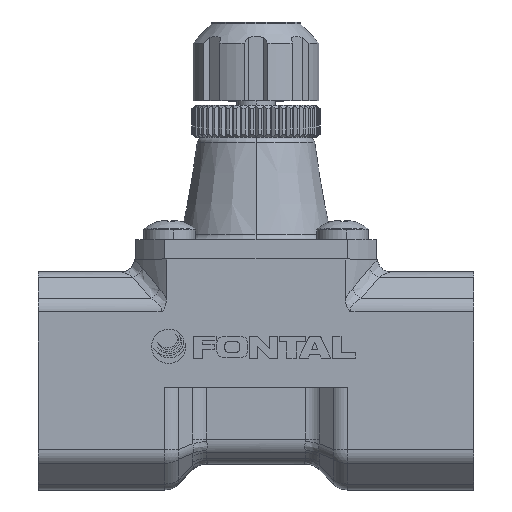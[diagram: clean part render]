
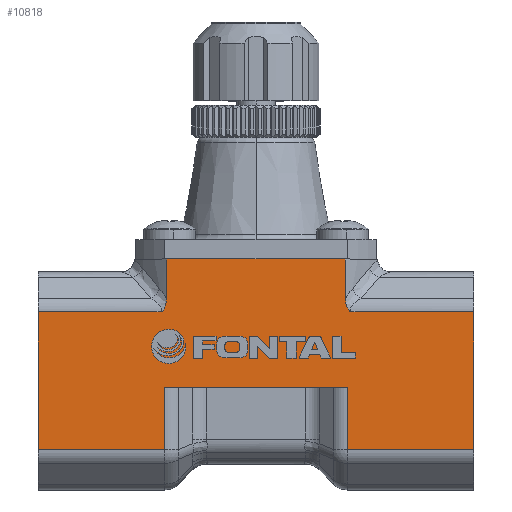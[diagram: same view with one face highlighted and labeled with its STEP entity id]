
A CAD part, top view. The second image highlights one B-rep face of the part: STEP entity #10818.
In plain terms, the highlighted planar face has unit normal (0, 0, 1).
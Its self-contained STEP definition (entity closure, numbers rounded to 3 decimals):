
#46 = VERTEX_POINT ( 'NONE', #15691 ) ;
#95 = CARTESIAN_POINT ( 'NONE',  ( 14.663, 11.757, 17. ) ) ;
#231 = FACE_OUTER_BOUND ( 'NONE', #9949, .T. ) ;
#280 = VECTOR ( 'NONE', #5862, 1000. ) ;
#349 = VERTEX_POINT ( 'NONE', #4993 ) ;
#431 = CARTESIAN_POINT ( 'NONE',  ( 34., 11.757, 17. ) ) ;
#475 = EDGE_CURVE ( 'NONE', #12056, #16376, #6317, .T. ) ;
#578 = CARTESIAN_POINT ( 'NONE',  ( 34., 13., 17. ) ) ;
#880 = CARTESIAN_POINT ( 'NONE',  ( 13.964, 13.84, 17. ) ) ;
#901 = DIRECTION ( 'NONE',  ( 1., 0., 0. ) ) ;
#1028 = VERTEX_POINT ( 'NONE', #13357 ) ;
#1042 = LINE ( 'NONE', #11879, #18570 ) ;
#1102 = EDGE_CURVE ( 'NONE', #8492, #349, #10556, .T. ) ;
#1150 = VERTEX_POINT ( 'NONE', #95 ) ;
#1571 = CARTESIAN_POINT ( 'NONE',  ( 34., 11.757, 17. ) ) ;
#1704 = ORIENTED_EDGE ( 'NONE', *, *, #9402, .T. ) ;
#1801 = ORIENTED_EDGE ( 'NONE', *, *, #475, .T. ) ;
#2030 = DIRECTION ( 'NONE',  ( 0., -1., 0. ) ) ;
#2270 = EDGE_CURVE ( 'NONE', #16942, #11783, #9056, .T. ) ;
#2271 = CARTESIAN_POINT ( 'NONE',  ( 14.396, 12.141, 17. ) ) ;
#2417 = VERTEX_POINT ( 'NONE', #17109 ) ;
#2477 = CARTESIAN_POINT ( 'NONE',  ( -13.964, 13.84, 17. ) ) ;
#2603 = CARTESIAN_POINT ( 'NONE',  ( -14.443, 12.062, 17. ) ) ;
#2871 = CARTESIAN_POINT ( 'NONE',  ( 34., 0., 17. ) ) ;
#2893 = VERTEX_POINT ( 'NONE', #16243 ) ;
#3091 = DIRECTION ( 'NONE',  ( 0., 1., 0. ) ) ;
#3184 = EDGE_CURVE ( 'NONE', #2893, #2417, #9621, .T. ) ;
#3188 = LINE ( 'NONE', #10819, #13304 ) ;
#3655 = ORIENTED_EDGE ( 'NONE', *, *, #10869, .T. ) ;
#4184 = ORIENTED_EDGE ( 'NONE', *, *, #9943, .T. ) ;
#4208 = B_SPLINE_CURVE_WITH_KNOTS ( 'NONE', 3,
 ( #8074, #18151, #13897, #12246, #2271, #5151, #13947, #9496, #13826, #880 ),
 .UNSPECIFIED., .F., .F.,
 ( 4, 2, 2, 2, 4 ),
 ( 0., 0., 0.001, 0.001, 0.002 ),
 .UNSPECIFIED. ) ;
#4390 = VECTOR ( 'NONE', #9130, 1000. ) ;
#4434 = CARTESIAN_POINT ( 'NONE',  ( -13.964, 13.84, 17. ) ) ;
#4993 = CARTESIAN_POINT ( 'NONE',  ( 34., -9.757, 17. ) ) ;
#5048 = CARTESIAN_POINT ( 'NONE',  ( 0., 0., 17. ) ) ;
#5151 = CARTESIAN_POINT ( 'NONE',  ( 14.263, 12.387, 17. ) ) ;
#5437 = CARTESIAN_POINT ( 'NONE',  ( -13.978, 13.466, 17. ) ) ;
#5478 = EDGE_CURVE ( 'NONE', #16376, #9767, #18358, .T. ) ;
#5629 = CARTESIAN_POINT ( 'NONE',  ( -14.663, 11.757, 17. ) ) ;
#5656 = EDGE_CURVE ( 'NONE', #18499, #1028, #1042, .T. ) ;
#5862 = DIRECTION ( 'NONE',  ( 0., -1., 0. ) ) ;
#5953 = DIRECTION ( 'NONE',  ( 1., 0., 0. ) ) ;
#6309 = PLANE ( 'NONE',  #13929 ) ;
#6317 = LINE ( 'NONE', #15669, #16174 ) ;
#6779 = VECTOR ( 'NONE', #17529, 1000. ) ;
#6907 = CARTESIAN_POINT ( 'NONE',  ( -14.263, 12.387, 17. ) ) ;
#7087 = ORIENTED_EDGE ( 'NONE', *, *, #2270, .T. ) ;
#7300 = VECTOR ( 'NONE', #18528, 1000. ) ;
#7691 = VECTOR ( 'NONE', #16530, 1000. ) ;
#7721 = ORIENTED_EDGE ( 'NONE', *, *, #16326, .T. ) ;
#7748 = ORIENTED_EDGE ( 'NONE', *, *, #5656, .T. ) ;
#8074 = CARTESIAN_POINT ( 'NONE',  ( 14.663, 11.757, 17. ) ) ;
#8492 = VERTEX_POINT ( 'NONE', #10654 ) ;
#9019 = DIRECTION ( 'NONE',  ( 0., -1., 0. ) ) ;
#9056 = B_SPLINE_CURVE_WITH_KNOTS ( 'NONE', 3,
 ( #2477, #9781, #5437, #12732, #15484, #11141, #6907, #9843, #2603, #15666, #9718, #5629 ),
 .UNSPECIFIED., .F., .F.,
 ( 4, 2, 2, 2, 2, 4 ),
 ( 0., 0.001, 0.001, 0.002, 0.002, 0.002 ),
 .UNSPECIFIED. ) ;
#9130 = DIRECTION ( 'NONE',  ( 0., 1., 0. ) ) ;
#9402 = EDGE_CURVE ( 'NONE', #1028, #12056, #3188, .T. ) ;
#9486 = CARTESIAN_POINT ( 'NONE',  ( -14.663, 11.757, 17. ) ) ;
#9496 = CARTESIAN_POINT ( 'NONE',  ( 14.017, 13.096, 17. ) ) ;
#9621 = LINE ( 'NONE', #12856, #15447 ) ;
#9718 = CARTESIAN_POINT ( 'NONE',  ( -14.604, 11.83, 17. ) ) ;
#9767 = VERTEX_POINT ( 'NONE', #12106 ) ;
#9781 = CARTESIAN_POINT ( 'NONE',  ( -13.964, 13.652, 17. ) ) ;
#9825 = VERTEX_POINT ( 'NONE', #431 ) ;
#9843 = CARTESIAN_POINT ( 'NONE',  ( -14.395, 12.142, 17. ) ) ;
#9943 = EDGE_CURVE ( 'NONE', #1150, #46, #4208, .T. ) ;
#9949 = EDGE_LOOP ( 'NONE', ( #16091, #4184, #17655, #10169, #7721, #7087, #18595, #7748, #1704, #1801, #10526, #3655, #14552, #13545 ) ) ;
#10026 = DIRECTION ( 'NONE',  ( 1., 0., 0. ) ) ;
#10169 = ORIENTED_EDGE ( 'NONE', *, *, #3184, .F. ) ;
#10302 = CARTESIAN_POINT ( 'NONE',  ( 34., -9.757, 17. ) ) ;
#10526 = ORIENTED_EDGE ( 'NONE', *, *, #5478, .T. ) ;
#10556 = LINE ( 'NONE', #10302, #6779 ) ;
#10627 = CARTESIAN_POINT ( 'NONE',  ( 14.243, -9.757, 17. ) ) ;
#10654 = CARTESIAN_POINT ( 'NONE',  ( 14.243, -9.757, 17. ) ) ;
#10709 = VECTOR ( 'NONE', #5953, 1000. ) ;
#10760 = DIRECTION ( 'NONE',  ( 1., 0., 0. ) ) ;
#10818 = ADVANCED_FACE ( 'NONE', ( #231 ), #6309, .T. ) ;
#10819 = CARTESIAN_POINT ( 'NONE',  ( 34., -9.757, 17. ) ) ;
#10869 = EDGE_CURVE ( 'NONE', #9767, #8492, #11699, .T. ) ;
#10897 = LINE ( 'NONE', #1571, #15832 ) ;
#11141 = CARTESIAN_POINT ( 'NONE',  ( -14.191, 12.559, 17. ) ) ;
#11446 = VECTOR ( 'NONE', #2030, 1000. ) ;
#11699 = LINE ( 'NONE', #10627, #11446 ) ;
#11783 = VERTEX_POINT ( 'NONE', #9486 ) ;
#11879 = CARTESIAN_POINT ( 'NONE',  ( -34., 13., 17. ) ) ;
#12056 = VERTEX_POINT ( 'NONE', #12693 ) ;
#12106 = CARTESIAN_POINT ( 'NONE',  ( 14.243, 0., 17. ) ) ;
#12246 = CARTESIAN_POINT ( 'NONE',  ( 14.444, 12.061, 17. ) ) ;
#12693 = CARTESIAN_POINT ( 'NONE',  ( -14.243, -9.757, 17. ) ) ;
#12732 = CARTESIAN_POINT ( 'NONE',  ( -14.033, 13.098, 17. ) ) ;
#12838 = CARTESIAN_POINT ( 'NONE',  ( 34., 11.757, 17. ) ) ;
#12856 = CARTESIAN_POINT ( 'NONE',  ( -19., 20., 17. ) ) ;
#13304 = VECTOR ( 'NONE', #901, 1000. ) ;
#13357 = CARTESIAN_POINT ( 'NONE',  ( -34., -9.757, 17. ) ) ;
#13466 = DIRECTION ( 'NONE',  ( 0., 0., 1. ) ) ;
#13545 = ORIENTED_EDGE ( 'NONE', *, *, #17106, .F. ) ;
#13826 = CARTESIAN_POINT ( 'NONE',  ( 13.964, 13.464, 17. ) ) ;
#13897 = CARTESIAN_POINT ( 'NONE',  ( 14.547, 11.906, 17. ) ) ;
#13929 = AXIS2_PLACEMENT_3D ( 'NONE', #5048, #13466, #10760 ) ;
#13947 = CARTESIAN_POINT ( 'NONE',  ( 14.19, 12.561, 17. ) ) ;
#14552 = ORIENTED_EDGE ( 'NONE', *, *, #1102, .T. ) ;
#14718 = CARTESIAN_POINT ( 'NONE',  ( 13.964, 10.26, 17. ) ) ;
#14931 = EDGE_CURVE ( 'NONE', #46, #2417, #15393, .T. ) ;
#15109 = LINE ( 'NONE', #12838, #7300 ) ;
#15266 = EDGE_CURVE ( 'NONE', #9825, #1150, #10897, .T. ) ;
#15316 = LINE ( 'NONE', #578, #7691 ) ;
#15393 = LINE ( 'NONE', #14718, #4390 ) ;
#15447 = VECTOR ( 'NONE', #10026, 1000. ) ;
#15484 = CARTESIAN_POINT ( 'NONE',  ( -14.075, 12.915, 17. ) ) ;
#15666 = CARTESIAN_POINT ( 'NONE',  ( -14.547, 11.906, 17. ) ) ;
#15669 = CARTESIAN_POINT ( 'NONE',  ( -14.243, 0., 17. ) ) ;
#15691 = CARTESIAN_POINT ( 'NONE',  ( 13.964, 13.84, 17. ) ) ;
#15832 = VECTOR ( 'NONE', #17535, 1000. ) ;
#15946 = CARTESIAN_POINT ( 'NONE',  ( -14.243, 0., 17. ) ) ;
#16091 = ORIENTED_EDGE ( 'NONE', *, *, #15266, .T. ) ;
#16174 = VECTOR ( 'NONE', #3091, 1000. ) ;
#16243 = CARTESIAN_POINT ( 'NONE',  ( -13.964, 20., 17. ) ) ;
#16276 = EDGE_CURVE ( 'NONE', #11783, #18499, #15109, .T. ) ;
#16326 = EDGE_CURVE ( 'NONE', #2893, #16942, #16460, .T. ) ;
#16376 = VERTEX_POINT ( 'NONE', #15946 ) ;
#16460 = LINE ( 'NONE', #17607, #280 ) ;
#16530 = DIRECTION ( 'NONE',  ( 0., -1., 0. ) ) ;
#16942 = VERTEX_POINT ( 'NONE', #4434 ) ;
#17064 = CARTESIAN_POINT ( 'NONE',  ( -34., 11.757, 17. ) ) ;
#17106 = EDGE_CURVE ( 'NONE', #9825, #349, #15316, .T. ) ;
#17109 = CARTESIAN_POINT ( 'NONE',  ( 13.964, 20., 17. ) ) ;
#17529 = DIRECTION ( 'NONE',  ( 1., 0., 0. ) ) ;
#17535 = DIRECTION ( 'NONE',  ( -1., 0., 0. ) ) ;
#17607 = CARTESIAN_POINT ( 'NONE',  ( -13.964, 10.26, 17. ) ) ;
#17655 = ORIENTED_EDGE ( 'NONE', *, *, #14931, .T. ) ;
#18151 = CARTESIAN_POINT ( 'NONE',  ( 14.604, 11.83, 17. ) ) ;
#18358 = LINE ( 'NONE', #2871, #10709 ) ;
#18499 = VERTEX_POINT ( 'NONE', #17064 ) ;
#18528 = DIRECTION ( 'NONE',  ( -1., 0., 0. ) ) ;
#18570 = VECTOR ( 'NONE', #9019, 1000. ) ;
#18595 = ORIENTED_EDGE ( 'NONE', *, *, #16276, .T. ) ;
